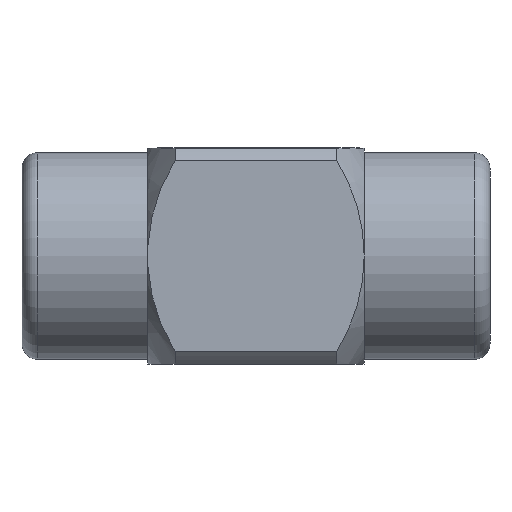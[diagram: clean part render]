
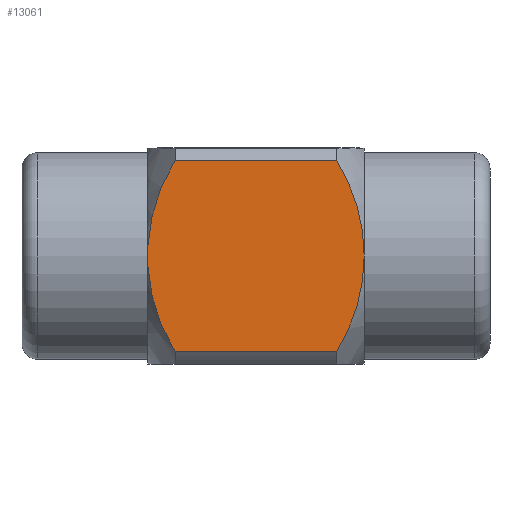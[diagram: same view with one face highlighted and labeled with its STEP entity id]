
A CAD part, front view. The second image highlights one B-rep face of the part: STEP entity #13061.
In plain terms, the highlighted planar face has unit normal (0, -1, 0).
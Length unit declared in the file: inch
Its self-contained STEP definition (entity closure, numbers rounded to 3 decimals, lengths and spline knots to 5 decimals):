
#272 = CIRCLE ( 'NONE', #279, 0.62048 ) ;
#279 = AXIS2_PLACEMENT_3D ( 'NONE', #6405, #6406, #6407 ) ;
#607 = AXIS2_PLACEMENT_3D ( 'NONE', #10858, #10869, #10870 ) ;
#768 = VERTEX_POINT ( 'NONE', #12472 ) ;
#784 = VERTEX_POINT ( 'NONE', #12488 ) ;
#785 = VERTEX_POINT ( 'NONE', #12489 ) ;
#790 = VERTEX_POINT ( 'NONE', #12494 ) ;
#791 = VERTEX_POINT ( 'NONE', #12495 ) ;
#796 = VERTEX_POINT ( 'NONE', #12500 ) ;
#797 = VERTEX_POINT ( 'NONE', #12501 ) ;
#1015 = CIRCLE ( 'NONE', #1047, 0.62048 ) ;
#1021 = AXIS2_PLACEMENT_3D ( 'NONE', #7501, #7502, #7503 ) ;
#1034 = CIRCLE ( 'NONE', #1021, 0.62048 ) ;
#1047 = AXIS2_PLACEMENT_3D ( 'NONE', #7578, #7579, #7580 ) ;
#4129 = LINE ( 'NONE', #4130, #8382 ) ;
#4130 = CARTESIAN_POINT ( 'NONE',  ( 0.3755, -0.375, 0.33072 ) ) ;
#4138 = DIRECTION ( 'NONE',  ( -1., 0., 0. ) ) ;
#4139 = LINE ( 'NONE', #4140, #8354 ) ;
#4140 = CARTESIAN_POINT ( 'NONE',  ( 0.3755, -0.375, -0.33072 ) ) ;
#4141 = DIRECTION ( 'NONE',  ( -1., 0., 0. ) ) ;
#6405 = CARTESIAN_POINT ( 'NONE',  ( -0.24498, -0.375, 0. ) ) ;
#6406 = DIRECTION ( 'NONE',  ( 0., -1., 0. ) ) ;
#6407 = DIRECTION ( 'NONE',  ( 0., 0., 1. ) ) ;
#6450 = CARTESIAN_POINT ( 'NONE',  ( -0.24498, -0.375, 0. ) ) ;
#6451 = DIRECTION ( 'NONE',  ( 0., -1., 0. ) ) ;
#6452 = DIRECTION ( 'NONE',  ( 0., 0., 1. ) ) ;
#6454 = LINE ( 'NONE', #6455, #8360 ) ;
#6455 = CARTESIAN_POINT ( 'NONE',  ( -0.3755, -0.375, -0.33072 ) ) ;
#6464 = DIRECTION ( 'NONE',  ( 0., 0., -1. ) ) ;
#7501 = CARTESIAN_POINT ( 'NONE',  ( 0.24398, -0.375, 0. ) ) ;
#7502 = DIRECTION ( 'NONE',  ( 0., -1., 0. ) ) ;
#7503 = DIRECTION ( 'NONE',  ( 0., 0., 1. ) ) ;
#7578 = CARTESIAN_POINT ( 'NONE',  ( 0.24398, -0.375, 0. ) ) ;
#7579 = DIRECTION ( 'NONE',  ( 0., -1., 0. ) ) ;
#7580 = DIRECTION ( 'NONE',  ( 0., 0., 1. ) ) ;
#8339 = CIRCLE ( 'NONE', #8362, 0.62048 ) ;
#8354 = VECTOR ( 'NONE', #4141, 39.37008 ) ;
#8360 = VECTOR ( 'NONE', #6464, 39.37008 ) ;
#8362 = AXIS2_PLACEMENT_3D ( 'NONE', #6450, #6451, #6452 ) ;
#8382 = VECTOR ( 'NONE', #4138, 39.37008 ) ;
#8472 = EDGE_LOOP ( 'NONE', ( #8908, #8909, #8910, #8911, #8912, #8913, #8914 ) ) ;
#8908 = ORIENTED_EDGE ( 'NONE', *, *, #9196, .T. ) ;
#8909 = ORIENTED_EDGE ( 'NONE', *, *, #10001, .T. ) ;
#8910 = ORIENTED_EDGE ( 'NONE', *, *, #9188, .T. ) ;
#8911 = ORIENTED_EDGE ( 'NONE', *, *, #9990, .T. ) ;
#8912 = ORIENTED_EDGE ( 'NONE', *, *, #9197, .F. ) ;
#8913 = ORIENTED_EDGE ( 'NONE', *, *, #9169, .T. ) ;
#8914 = ORIENTED_EDGE ( 'NONE', *, *, #9184, .T. ) ;
#9169 = EDGE_CURVE ( 'NONE', #784, #796, #272, .T. ) ;
#9184 = EDGE_CURVE ( 'NONE', #796, #797, #8339, .T. ) ;
#9188 = EDGE_CURVE ( 'NONE', #790, #791, #6454, .T. ) ;
#9196 = EDGE_CURVE ( 'NONE', #797, #785, #4129, .T. ) ;
#9197 = EDGE_CURVE ( 'NONE', #784, #768, #4139, .T. ) ;
#9990 = EDGE_CURVE ( 'NONE', #791, #768, #1034, .T. ) ;
#10001 = EDGE_CURVE ( 'NONE', #785, #790, #1015, .T. ) ;
#10858 = CARTESIAN_POINT ( 'NONE',  ( 0.3755, -0.375, -0.33072 ) ) ;
#10865 = FACE_OUTER_BOUND ( 'NONE', #8472, .T. ) ;
#10866 = PLANE ( 'NONE',  #607 ) ;
#10869 = DIRECTION ( 'NONE',  ( 0., 1., 0. ) ) ;
#10870 = DIRECTION ( 'NONE',  ( 0., 0., 1. ) ) ;
#12472 = CARTESIAN_POINT ( 'NONE',  ( -0.28102, -0.375, -0.33072 ) ) ;
#12488 = CARTESIAN_POINT ( 'NONE',  ( 0.28002, -0.375, -0.33072 ) ) ;
#12489 = CARTESIAN_POINT ( 'NONE',  ( -0.28102, -0.375, 0.33072 ) ) ;
#12494 = CARTESIAN_POINT ( 'NONE',  ( -0.3755, -0.375, 0.03521 ) ) ;
#12495 = CARTESIAN_POINT ( 'NONE',  ( -0.3755, -0.375, -0.03521 ) ) ;
#12500 = CARTESIAN_POINT ( 'NONE',  ( 0.3755, -0.375, 0. ) ) ;
#12501 = CARTESIAN_POINT ( 'NONE',  ( 0.28002, -0.375, 0.33072 ) ) ;
#13061 = ADVANCED_FACE ( 'NONE', ( #10865 ), #10866, .F. ) ;
